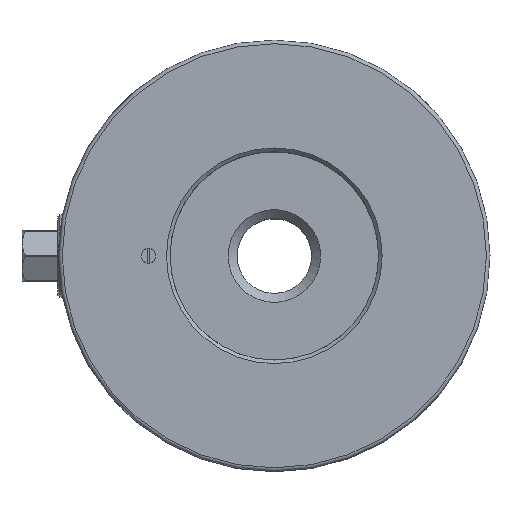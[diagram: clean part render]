
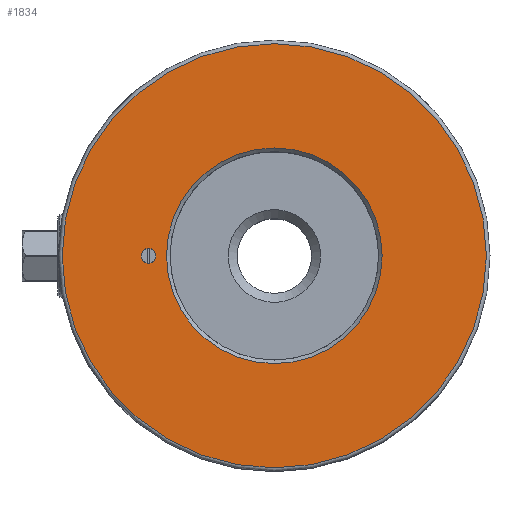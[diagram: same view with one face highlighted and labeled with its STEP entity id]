
A CAD part, top view. The second image highlights one B-rep face of the part: STEP entity #1834.
In plain terms, the highlighted planar face has unit normal (0, 0, 1).
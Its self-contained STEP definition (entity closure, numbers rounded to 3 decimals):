
#160=PLANE('',#1946);
#258=ORIENTED_EDGE('',*,*,#528,.T.);
#259=ORIENTED_EDGE('',*,*,#529,.T.);
#260=ORIENTED_EDGE('',*,*,#530,.T.);
#528=EDGE_CURVE('',#670,#670,#780,.T.);
#529=EDGE_CURVE('',#671,#671,#781,.T.);
#530=EDGE_CURVE('',#672,#672,#782,.F.);
#670=VERTEX_POINT('',#2521);
#671=VERTEX_POINT('',#2524);
#672=VERTEX_POINT('',#2526);
#780=CIRCLE('',#1945,2.067);
#781=CIRCLE('',#1947,30.);
#782=CIRCLE('',#1948,59.);
#863=EDGE_LOOP('',(#258));
#864=EDGE_LOOP('',(#259));
#865=EDGE_LOOP('',(#260));
#1024=FACE_BOUND('',#863,.T.);
#1025=FACE_BOUND('',#864,.T.);
#1026=FACE_BOUND('',#865,.T.);
#1834=ADVANCED_FACE('',(#1024,#1025,#1026),#160,.F.);
#1945=AXIS2_PLACEMENT_3D('',#2520,#2149,#2150);
#1946=AXIS2_PLACEMENT_3D('',#2522,#2151,#2152);
#1947=AXIS2_PLACEMENT_3D('',#2523,#2153,#2154);
#1948=AXIS2_PLACEMENT_3D('',#2525,#2155,#2156);
#2149=DIRECTION('',(0.,0.,-1.));
#2150=DIRECTION('',(0.,1.,0.));
#2151=DIRECTION('',(0.,0.,-1.));
#2152=DIRECTION('',(1.,0.,0.));
#2153=DIRECTION('',(0.,0.,-1.));
#2154=DIRECTION('',(1.,0.,0.));
#2155=DIRECTION('',(0.,0.,-1.));
#2156=DIRECTION('',(1.,0.,0.));
#2520=CARTESIAN_POINT('',(-35.,0.,65.5));
#2521=CARTESIAN_POINT('',(-35.,2.067,65.5));
#2522=CARTESIAN_POINT('',(-60.,0.,65.5));
#2523=CARTESIAN_POINT('',(0.,0.,65.5));
#2524=CARTESIAN_POINT('',(30.,0.,65.5));
#2525=CARTESIAN_POINT('',(0.,0.,65.5));
#2526=CARTESIAN_POINT('',(59.,0.,65.5));
